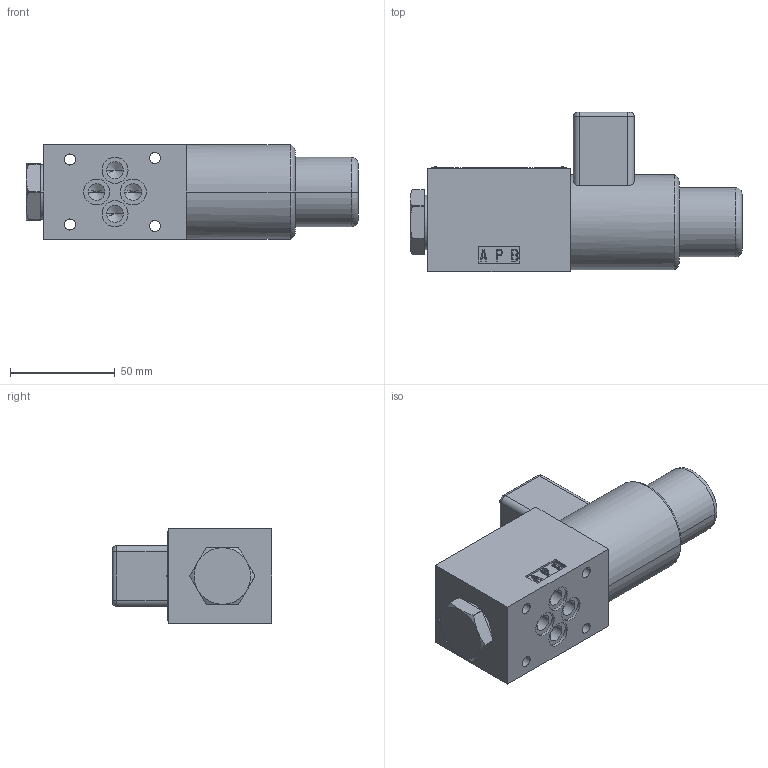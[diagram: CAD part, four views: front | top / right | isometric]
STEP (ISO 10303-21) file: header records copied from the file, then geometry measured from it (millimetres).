
FILE_DESCRIPTION((''),'2;1');
FILE_NAME('RPE3_062_B','2011-03-14T',('tvatras'),(''),'PRO/ENGINEER BY PARAMETRIC TECHNOLOGY CORPORATION, 2010180','PRO/ENGINEER BY PARAMETRIC TECHNOLOGY CORPORATION, 2010180','');
FILE_SCHEMA(('CONFIG_CONTROL_DESIGN'));
Length unit declared in the file: millimetre
Products named in the file (1): RPE3_062_B
Bounding box: 158.5 x 76 x 45.3 mm (x, y, z)
Volume: 281251.6 mm3; surface area: 37311.4 mm2
Topology: 1 solids, 3 shells, 381 faces, 1025 edges, 671 vertices
Faces by surface type: plane 285, cylinder 68, cone 16, bspline 4, torus 4, sphere 4
Entity records: 11923 total; most frequent: CARTESIAN_POINT 2264, ORIENTED_EDGE 2016, DIRECTION 1919, EDGE_CURVE 1010, VECTOR 817, LINE 817, VERTEX_POINT 669, AXIS2_PLACEMENT_3D 551
